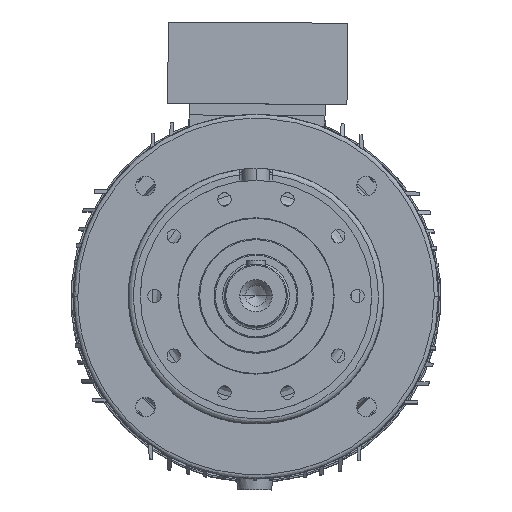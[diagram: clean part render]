
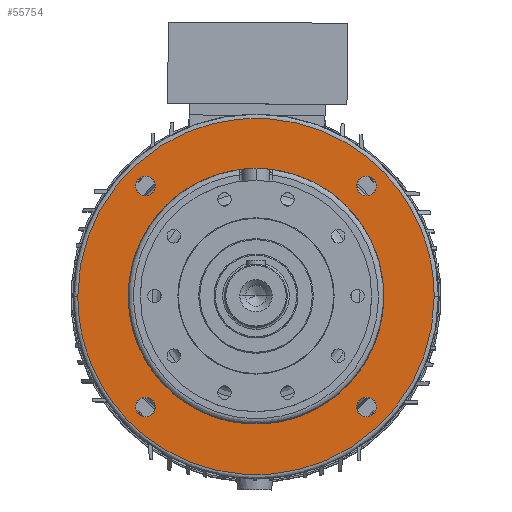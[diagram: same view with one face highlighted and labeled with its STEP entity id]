
A CAD part, top view. The second image highlights one B-rep face of the part: STEP entity #55754.
In plain terms, the highlighted planar face has unit normal (0, 0, 1).
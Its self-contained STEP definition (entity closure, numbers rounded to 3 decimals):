
#8048 = CARTESIAN_POINT ( 'NONE',  ( 0., 122., -116.5 ) ) ;
#8080 = PLANE ( 'NONE',  #23243 ) ;
#8086 = DIRECTION ( 'NONE',  ( 0., 0., 1. ) ) ;
#8089 = DIRECTION ( 'NONE',  ( 1., 0., 0. ) ) ;
#9759 = AXIS2_PLACEMENT_3D ( 'NONE', #67792, #68012, #68193 ) ;
#9814 = AXIS2_PLACEMENT_3D ( 'NONE', #35231, #35235, #35243 ) ;
#9829 = AXIS2_PLACEMENT_3D ( 'NONE', #35014, #35046, #35013 ) ;
#9870 = AXIS2_PLACEMENT_3D ( 'NONE', #35249, #35279, #35285 ) ;
#9888 = AXIS2_PLACEMENT_3D ( 'NONE', #35373, #35383, #35376 ) ;
#10305 = AXIS2_PLACEMENT_3D ( 'NONE', #40639, #40626, #40648 ) ;
#13798 = CARTESIAN_POINT ( 'NONE',  ( 171., 0., -116.5 ) ) ;
#13802 = CARTESIAN_POINT ( 'NONE',  ( 171., -342., -116.5 ) ) ;
#13809 = CARTESIAN_POINT ( 'NONE',  ( -171., -342., -116.5 ) ) ;
#13847 = CARTESIAN_POINT ( 'NONE',  ( -171., 0., -116.5 ) ) ;
#14749 = CIRCLE ( 'NONE', #10305, 9.5 ) ;
#16645 = EDGE_LOOP ( 'NONE', ( #22609, #22229 ) ) ;
#16685 = EDGE_LOOP ( 'NONE', ( #22593, #22377 ) ) ;
#16705 = EDGE_LOOP ( 'NONE', ( #22395, #22505 ) ) ;
#16707 = EDGE_LOOP ( 'NONE', ( #22541, #22549 ) ) ;
#16709 = EDGE_LOOP ( 'NONE', ( #22418, #22350 ) ) ;
#16716 = EDGE_LOOP ( 'NONE', ( #22185, #22620 ) ) ;
#18125 = CIRCLE ( 'NONE', #9759, 9.5 ) ;
#18135 = CIRCLE ( 'NONE', #9829, 9.5 ) ;
#18178 = CIRCLE ( 'NONE', #9870, 122. ) ;
#18224 = CIRCLE ( 'NONE', #9814, 9.5 ) ;
#18252 = CIRCLE ( 'NONE', #9888, 9.5 ) ;
#22185 = ORIENTED_EDGE ( 'NONE', *, *, #63451, .T. ) ;
#22229 = ORIENTED_EDGE ( 'NONE', *, *, #57532, .T. ) ;
#22350 = ORIENTED_EDGE ( 'NONE', *, *, #57467, .T. ) ;
#22377 = ORIENTED_EDGE ( 'NONE', *, *, #40430, .T. ) ;
#22395 = ORIENTED_EDGE ( 'NONE', *, *, #57313, .F. ) ;
#22418 = ORIENTED_EDGE ( 'NONE', *, *, #40436, .T. ) ;
#22505 = ORIENTED_EDGE ( 'NONE', *, *, #40395, .F. ) ;
#22541 = ORIENTED_EDGE ( 'NONE', *, *, #40392, .T. ) ;
#22549 = ORIENTED_EDGE ( 'NONE', *, *, #57564, .T. ) ;
#22593 = ORIENTED_EDGE ( 'NONE', *, *, #57545, .T. ) ;
#22609 = ORIENTED_EDGE ( 'NONE', *, *, #40432, .T. ) ;
#22620 = ORIENTED_EDGE ( 'NONE', *, *, #57458, .T. ) ;
#23243 = AXIS2_PLACEMENT_3D ( 'NONE', #8048, #8086, #8089 ) ;
#23286 = AXIS2_PLACEMENT_3D ( 'NONE', #31607, #31626, #31630 ) ;
#23350 = AXIS2_PLACEMENT_3D ( 'NONE', #31395, #31411, #31500 ) ;
#23414 = AXIS2_PLACEMENT_3D ( 'NONE', #31628, #31636, #31624 ) ;
#23437 = AXIS2_PLACEMENT_3D ( 'NONE', #31619, #31615, #31606 ) ;
#26679 = CARTESIAN_POINT ( 'NONE',  ( 171., 0., -116.5 ) ) ;
#26695 = CARTESIAN_POINT ( 'NONE',  ( -171., 0., -116.5 ) ) ;
#28939 = FACE_OUTER_BOUND ( 'NONE', #16705, .T. ) ;
#28940 = FACE_BOUND ( 'NONE', #16707, .T. ) ;
#28963 = FACE_BOUND ( 'NONE', #16685, .T. ) ;
#28966 = FACE_BOUND ( 'NONE', #16645, .T. ) ;
#28984 = FACE_BOUND ( 'NONE', #16716, .T. ) ;
#29000 = FACE_BOUND ( 'NONE', #16709, .T. ) ;
#31395 = CARTESIAN_POINT ( 'NONE',  ( 106.066, 106.066, -116.5 ) ) ;
#31411 = DIRECTION ( 'NONE',  ( 0., 0., -1. ) ) ;
#31416 = CARTESIAN_POINT ( 'NONE',  ( -171., 0., -116.5 ) ) ;
#31458 = CARTESIAN_POINT ( 'NONE',  ( 171., 0., -116.5 ) ) ;
#31478 = CARTESIAN_POINT ( 'NONE',  ( 171., 342., -116.5 ) ) ;
#31498 = CARTESIAN_POINT ( 'NONE',  ( -171., 342., -116.5 ) ) ;
#31500 = DIRECTION ( 'NONE',  ( -1., 0., 0. ) ) ;
#31606 = DIRECTION ( 'NONE',  ( 0., 1., 0. ) ) ;
#31607 = CARTESIAN_POINT ( 'NONE',  ( -106.066, -106.066, -116.5 ) ) ;
#31615 = DIRECTION ( 'NONE',  ( 0., 0., -1. ) ) ;
#31619 = CARTESIAN_POINT ( 'NONE',  ( -106.066, 106.066, -116.5 ) ) ;
#31624 = DIRECTION ( 'NONE',  ( -1., 0., 0. ) ) ;
#31626 = DIRECTION ( 'NONE',  ( 0., 0., -1. ) ) ;
#31628 = CARTESIAN_POINT ( 'NONE',  ( 0., 0., -116.5 ) ) ;
#31630 = DIRECTION ( 'NONE',  ( -1., 0., 0. ) ) ;
#31636 = DIRECTION ( 'NONE',  ( 0., 0., -1. ) ) ;
#35013 = DIRECTION ( 'NONE',  ( 0., 1., 0. ) ) ;
#35014 = CARTESIAN_POINT ( 'NONE',  ( -106.066, 106.066, -116.5 ) ) ;
#35046 = DIRECTION ( 'NONE',  ( 0., 0., -1. ) ) ;
#35231 = CARTESIAN_POINT ( 'NONE',  ( -106.066, -106.066, -116.5 ) ) ;
#35235 = DIRECTION ( 'NONE',  ( 0., 0., -1. ) ) ;
#35243 = DIRECTION ( 'NONE',  ( -1., 0., 0. ) ) ;
#35249 = CARTESIAN_POINT ( 'NONE',  ( 0., 0., -116.5 ) ) ;
#35279 = DIRECTION ( 'NONE',  ( 0., 0., -1. ) ) ;
#35285 = DIRECTION ( 'NONE',  ( -1., 0., 0. ) ) ;
#35373 = CARTESIAN_POINT ( 'NONE',  ( 106.066, 106.066, -116.5 ) ) ;
#35376 = DIRECTION ( 'NONE',  ( -1., 0., 0. ) ) ;
#35383 = DIRECTION ( 'NONE',  ( 0., 0., -1. ) ) ;
#35517 = VERTEX_POINT ( 'NONE', #26695 ) ;
#35518 = VERTEX_POINT ( 'NONE', #26679 ) ;
#40392 = EDGE_CURVE ( 'NONE', #48823, #48809, #58568, .T. ) ;
#40395 = EDGE_CURVE ( 'NONE', #35517, #35518, #43304, .T. ) ;
#40430 = EDGE_CURVE ( 'NONE', #48860, #48808, #58671, .T. ) ;
#40432 = EDGE_CURVE ( 'NONE', #48798, #48797, #58655, .T. ) ;
#40436 = EDGE_CURVE ( 'NONE', #48827, #48850, #58627, .T. ) ;
#40626 = DIRECTION ( 'NONE',  ( 0., 0., -1. ) ) ;
#40639 = CARTESIAN_POINT ( 'NONE',  ( 106.066, -106.066, -116.5 ) ) ;
#40648 = DIRECTION ( 'NONE',  ( 0., 1., 0. ) ) ;
#43304 =( BOUNDED_CURVE ( )  B_SPLINE_CURVE ( 3, ( #31416, #31498, #31478, #31458 ),
 .UNSPECIFIED., .F., .F. ) 
 B_SPLINE_CURVE_WITH_KNOTS ( ( 4, 4 ),
 ( 0.5, 1. ),
 .UNSPECIFIED. ) 
 CURVE ( )  GEOMETRIC_REPRESENTATION_ITEM ( )  RATIONAL_B_SPLINE_CURVE ( ( 1., 0.333, 0.333, 1. ) ) 
 REPRESENTATION_ITEM ( '' )  );
#48795 = VERTEX_POINT ( 'NONE', #54664 ) ;
#48797 = VERTEX_POINT ( 'NONE', #54667 ) ;
#48798 = VERTEX_POINT ( 'NONE', #54668 ) ;
#48808 = VERTEX_POINT ( 'NONE', #54741 ) ;
#48809 = VERTEX_POINT ( 'NONE', #54770 ) ;
#48823 = VERTEX_POINT ( 'NONE', #54749 ) ;
#48827 = VERTEX_POINT ( 'NONE', #54767 ) ;
#48843 = VERTEX_POINT ( 'NONE', #54762 ) ;
#48850 = VERTEX_POINT ( 'NONE', #54752 ) ;
#48860 = VERTEX_POINT ( 'NONE', #54754 ) ;
#54664 = CARTESIAN_POINT ( 'NONE',  ( 106.066, -115.566, -116.5 ) ) ;
#54667 = CARTESIAN_POINT ( 'NONE',  ( -96.566, -106.066, -116.5 ) ) ;
#54668 = CARTESIAN_POINT ( 'NONE',  ( -115.566, -106.066, -116.5 ) ) ;
#54741 = CARTESIAN_POINT ( 'NONE',  ( -122., 0., -116.5 ) ) ;
#54749 = CARTESIAN_POINT ( 'NONE',  ( 96.566, 106.066, -116.5 ) ) ;
#54752 = CARTESIAN_POINT ( 'NONE',  ( -106.066, 96.566, -116.5 ) ) ;
#54754 = CARTESIAN_POINT ( 'NONE',  ( 122., 0., -116.5 ) ) ;
#54762 = CARTESIAN_POINT ( 'NONE',  ( 106.066, -96.566, -116.5 ) ) ;
#54767 = CARTESIAN_POINT ( 'NONE',  ( -106.066, 115.566, -116.5 ) ) ;
#54770 = CARTESIAN_POINT ( 'NONE',  ( 115.566, 106.066, -116.5 ) ) ;
#55559 =( BOUNDED_CURVE ( )  B_SPLINE_CURVE ( 3, ( #13798, #13802, #13809, #13847 ),
 .UNSPECIFIED., .F., .F. ) 
 B_SPLINE_CURVE_WITH_KNOTS ( ( 4, 4 ),
 ( 0., 0.5 ),
 .UNSPECIFIED. ) 
 CURVE ( )  GEOMETRIC_REPRESENTATION_ITEM ( )  RATIONAL_B_SPLINE_CURVE ( ( 1., 0.333, 0.333, 1. ) ) 
 REPRESENTATION_ITEM ( '' )  );
#55754 = ADVANCED_FACE ( 'NONE', ( #28939, #28963, #29000, #28966, #28984, #28940 ), #8080, .T. ) ;
#57313 = EDGE_CURVE ( 'NONE', #35518, #35517, #55559, .T. ) ;
#57458 = EDGE_CURVE ( 'NONE', #48795, #48843, #18125, .T. ) ;
#57467 = EDGE_CURVE ( 'NONE', #48850, #48827, #18135, .T. ) ;
#57532 = EDGE_CURVE ( 'NONE', #48797, #48798, #18224, .T. ) ;
#57545 = EDGE_CURVE ( 'NONE', #48808, #48860, #18178, .T. ) ;
#57564 = EDGE_CURVE ( 'NONE', #48809, #48823, #18252, .T. ) ;
#58568 = CIRCLE ( 'NONE', #23350, 9.5 ) ;
#58627 = CIRCLE ( 'NONE', #23437, 9.5 ) ;
#58655 = CIRCLE ( 'NONE', #23286, 9.5 ) ;
#58671 = CIRCLE ( 'NONE', #23414, 122. ) ;
#63451 = EDGE_CURVE ( 'NONE', #48843, #48795, #14749, .T. ) ;
#67792 = CARTESIAN_POINT ( 'NONE',  ( 106.066, -106.066, -116.5 ) ) ;
#68012 = DIRECTION ( 'NONE',  ( 0., 0., -1. ) ) ;
#68193 = DIRECTION ( 'NONE',  ( 0., 1., 0. ) ) ;
